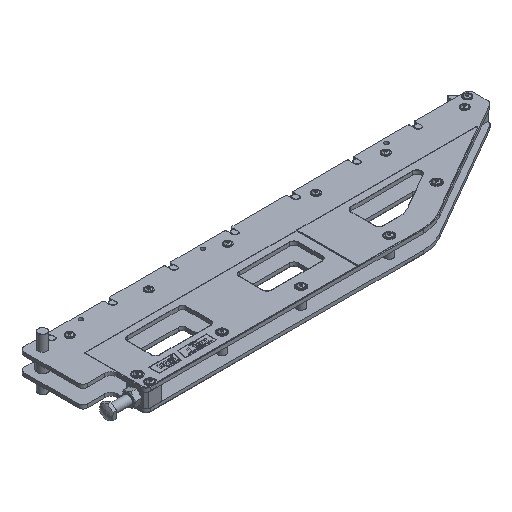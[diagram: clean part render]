
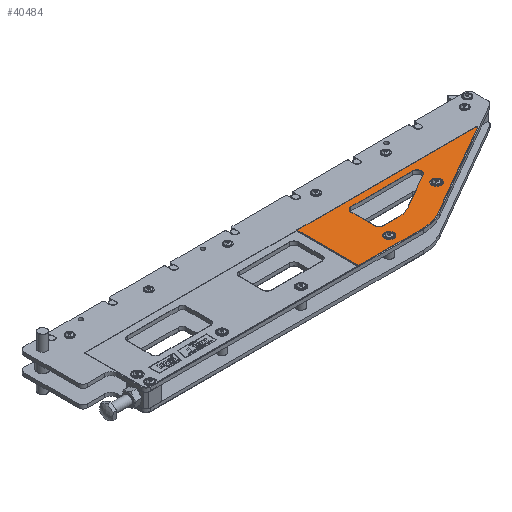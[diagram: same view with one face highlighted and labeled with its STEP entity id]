
A CAD part, isometric view. The second image highlights one B-rep face of the part: STEP entity #40484.
In plain terms, the highlighted planar face has unit normal (0, 0, 1).
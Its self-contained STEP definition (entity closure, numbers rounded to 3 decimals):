
#2442=FACE_BOUND('',#7197,.T.);
#2443=FACE_BOUND('',#7198,.T.);
#2444=FACE_BOUND('',#7199,.T.);
#2961=PLANE('',#43005);
#4728=FACE_OUTER_BOUND('',#7196,.T.);
#7196=EDGE_LOOP('',(#30741,#30742,#30743,#30744,#30745,#30746));
#7197=EDGE_LOOP('',(#30747));
#7198=EDGE_LOOP('',(#30748));
#7199=EDGE_LOOP('',(#30749,#30750,#30751,#30752,#30753,#30754,#30755,#30756));
#9898=LINE('',#57501,#14208);
#9901=LINE('',#57507,#14211);
#9902=LINE('',#57509,#14212);
#9903=LINE('',#57511,#14213);
#9904=LINE('',#57521,#14214);
#9905=LINE('',#57525,#14215);
#9906=LINE('',#57529,#14216);
#9907=LINE('',#57532,#14217);
#14208=VECTOR('',#46853,248.277);
#14211=VECTOR('',#46858,409.11);
#14212=VECTOR('',#46859,141.);
#14213=VECTOR('',#46860,146.096);
#14214=VECTOR('',#46869,54.3);
#14215=VECTOR('',#46872,141.886);
#14216=VECTOR('',#46875,97.882);
#14217=VECTOR('',#46878,37.117);
#18023=CIRCLE('',#43003,2.);
#18024=CIRCLE('',#43006,98.);
#18025=CIRCLE('',#43007,11.);
#18026=CIRCLE('',#43008,11.);
#18027=CIRCLE('',#43009,10.);
#18028=CIRCLE('',#43010,10.);
#18029=CIRCLE('',#43011,10.);
#18030=CIRCLE('',#43012,50.);
#19068=VERTEX_POINT('',#57494);
#19069=VERTEX_POINT('',#57496);
#19070=VERTEX_POINT('',#57500);
#19072=VERTEX_POINT('',#57506);
#19073=VERTEX_POINT('',#57508);
#19074=VERTEX_POINT('',#57510);
#19075=VERTEX_POINT('',#57513);
#19076=VERTEX_POINT('',#57515);
#19077=VERTEX_POINT('',#57517);
#19078=VERTEX_POINT('',#57518);
#19079=VERTEX_POINT('',#57520);
#19080=VERTEX_POINT('',#57522);
#19081=VERTEX_POINT('',#57524);
#19082=VERTEX_POINT('',#57526);
#19083=VERTEX_POINT('',#57528);
#19084=VERTEX_POINT('',#57530);
#23455=EDGE_CURVE('',#19068,#19069,#18023,.T.);
#23457=EDGE_CURVE('',#19070,#19069,#9898,.T.);
#23460=EDGE_CURVE('',#19068,#19072,#9901,.T.);
#23461=EDGE_CURVE('',#19072,#19073,#9902,.T.);
#23462=EDGE_CURVE('',#19073,#19074,#9903,.T.);
#23463=EDGE_CURVE('',#19074,#19070,#18024,.T.);
#23464=EDGE_CURVE('',#19075,#19075,#18025,.T.);
#23465=EDGE_CURVE('',#19076,#19076,#18026,.T.);
#23466=EDGE_CURVE('',#19077,#19078,#18027,.T.);
#23467=EDGE_CURVE('',#19079,#19077,#9904,.T.);
#23468=EDGE_CURVE('',#19080,#19079,#18028,.T.);
#23469=EDGE_CURVE('',#19081,#19080,#9905,.T.);
#23470=EDGE_CURVE('',#19082,#19081,#18029,.T.);
#23471=EDGE_CURVE('',#19083,#19082,#9906,.T.);
#23472=EDGE_CURVE('',#19084,#19083,#18030,.T.);
#23473=EDGE_CURVE('',#19078,#19084,#9907,.T.);
#30741=ORIENTED_EDGE('',*,*,#23455,.F.);
#30742=ORIENTED_EDGE('',*,*,#23460,.T.);
#30743=ORIENTED_EDGE('',*,*,#23461,.T.);
#30744=ORIENTED_EDGE('',*,*,#23462,.T.);
#30745=ORIENTED_EDGE('',*,*,#23463,.T.);
#30746=ORIENTED_EDGE('',*,*,#23457,.T.);
#30747=ORIENTED_EDGE('',*,*,#23464,.T.);
#30748=ORIENTED_EDGE('',*,*,#23465,.T.);
#30749=ORIENTED_EDGE('',*,*,#23466,.F.);
#30750=ORIENTED_EDGE('',*,*,#23467,.F.);
#30751=ORIENTED_EDGE('',*,*,#23468,.F.);
#30752=ORIENTED_EDGE('',*,*,#23469,.F.);
#30753=ORIENTED_EDGE('',*,*,#23470,.F.);
#30754=ORIENTED_EDGE('',*,*,#23471,.F.);
#30755=ORIENTED_EDGE('',*,*,#23472,.F.);
#30756=ORIENTED_EDGE('',*,*,#23473,.F.);
#40484=ADVANCED_FACE('',(#4728,#2442,#2443,#2444),#2961,.T.);
#43003=AXIS2_PLACEMENT_3D('',#57497,#46848,#46849);
#43005=AXIS2_PLACEMENT_3D('',#57505,#46856,#46857);
#43006=AXIS2_PLACEMENT_3D('',#57512,#46861,#46862);
#43007=AXIS2_PLACEMENT_3D('',#57514,#46863,#46864);
#43008=AXIS2_PLACEMENT_3D('',#57516,#46865,#46866);
#43009=AXIS2_PLACEMENT_3D('',#57519,#46867,#46868);
#43010=AXIS2_PLACEMENT_3D('',#57523,#46870,#46871);
#43011=AXIS2_PLACEMENT_3D('',#57527,#46873,#46874);
#43012=AXIS2_PLACEMENT_3D('',#57531,#46876,#46877);
#46848=DIRECTION('center_axis',(0.,0.,-1.));
#46849=DIRECTION('ref_axis',(0.966,0.259,0.));
#46853=DIRECTION('',(0.866,0.5,0.));
#46856=DIRECTION('center_axis',(0.,0.,1.));
#46857=DIRECTION('ref_axis',(1.,0.,0.));
#46858=DIRECTION('',(-1.,0.,0.));
#46859=DIRECTION('',(0.,-1.,0.));
#46860=DIRECTION('',(1.,0.,0.));
#46861=DIRECTION('center_axis',(0.,0.,1.));
#46862=DIRECTION('ref_axis',(0.,1.,0.));
#46863=DIRECTION('center_axis',(0.,0.,-1.));
#46864=DIRECTION('ref_axis',(-1.,0.,0.));
#46865=DIRECTION('center_axis',(0.,0.,-1.));
#46866=DIRECTION('ref_axis',(-1.,0.,0.));
#46867=DIRECTION('center_axis',(0.,0.,1.));
#46868=DIRECTION('ref_axis',(-0.707,-0.707,0.));
#46869=DIRECTION('',(0.,-1.,0.));
#46870=DIRECTION('center_axis',(0.,0.,1.));
#46871=DIRECTION('ref_axis',(-0.707,0.707,0.));
#46872=DIRECTION('',(-1.,0.,0.));
#46873=DIRECTION('center_axis',(0.,0.,1.));
#46874=DIRECTION('ref_axis',(0.966,0.259,0.));
#46875=DIRECTION('',(0.866,0.5,0.));
#46876=DIRECTION('center_axis',(0.,0.,1.));
#46877=DIRECTION('ref_axis',(0.259,-0.966,0.));
#46878=DIRECTION('',(1.,0.,0.));
#57494=CARTESIAN_POINT('',(963.11,143.,0.7));
#57496=CARTESIAN_POINT('',(964.11,139.268,0.7));
#57497=CARTESIAN_POINT('Origin',(963.11,141.,0.7));
#57500=CARTESIAN_POINT('',(749.096,15.13,0.7));
#57501=CARTESIAN_POINT('',(788.041,37.614,0.7));
#57505=CARTESIAN_POINT('Origin',(488.558,134.791,0.7));
#57506=CARTESIAN_POINT('',(554.,143.,0.7));
#57507=CARTESIAN_POINT('',(277.779,143.,0.7));
#57508=CARTESIAN_POINT('',(554.,2.,0.7));
#57509=CARTESIAN_POINT('',(554.,138.895,0.7));
#57510=CARTESIAN_POINT('',(700.096,2.,0.7));
#57511=CARTESIAN_POINT('',(594.327,2.,0.7));
#57512=CARTESIAN_POINT('Origin',(700.096,100.,0.7));
#57513=CARTESIAN_POINT('',(660.,26.6,0.7));
#57514=CARTESIAN_POINT('Origin',(649.,26.6,0.7));
#57515=CARTESIAN_POINT('',(820.,78.121,0.7));
#57516=CARTESIAN_POINT('Origin',(809.,78.121,0.7));
#57517=CARTESIAN_POINT('',(652.121,63.2,0.7));
#57518=CARTESIAN_POINT('',(662.121,53.2,0.7));
#57519=CARTESIAN_POINT('Origin',(662.121,63.2,0.7));
#57520=CARTESIAN_POINT('',(652.121,117.5,0.7));
#57521=CARTESIAN_POINT('',(652.121,93.995,0.7));
#57522=CARTESIAN_POINT('',(662.121,127.5,0.7));
#57523=CARTESIAN_POINT('Origin',(662.121,117.5,0.7));
#57524=CARTESIAN_POINT('',(804.007,127.5,0.7));
#57525=CARTESIAN_POINT('',(570.34,127.5,0.7));
#57526=CARTESIAN_POINT('',(809.007,108.84,0.7));
#57527=CARTESIAN_POINT('Origin',(804.007,117.5,0.7));
#57528=CARTESIAN_POINT('',(724.239,59.899,0.7));
#57529=CARTESIAN_POINT('',(710.618,52.035,0.7));
#57530=CARTESIAN_POINT('',(699.239,53.2,0.7));
#57531=CARTESIAN_POINT('Origin',(699.239,103.2,0.7));
#57532=CARTESIAN_POINT('',(600.597,53.2,0.7));
